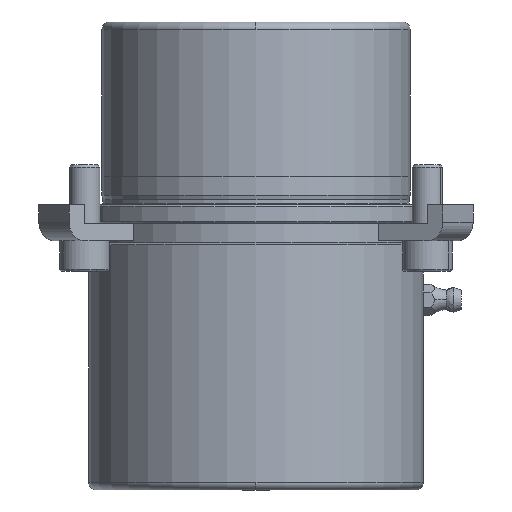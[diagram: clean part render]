
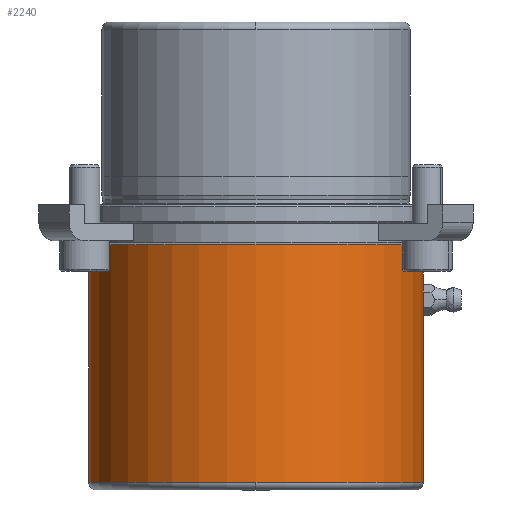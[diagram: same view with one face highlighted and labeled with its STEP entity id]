
A CAD part, front view. The second image highlights one B-rep face of the part: STEP entity #2240.
In plain terms, the highlighted cylindrical face has radius 44 mm (diameter 88 mm), a partial arc.
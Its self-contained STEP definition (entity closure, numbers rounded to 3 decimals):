
#604=CARTESIAN_POINT('',(0.,-44.,-73.));
#605=VERTEX_POINT('',#604);
#613=CARTESIAN_POINT('',(-44.0,0.,-73.0));
#614=VERTEX_POINT('',#613);
#615=CARTESIAN_POINT('',(0.0,0.,-73.0));
#616=DIRECTION('',(0.0,0.0,-1.0));
#617=DIRECTION('',(1.0,0.0,0.0));
#618=AXIS2_PLACEMENT_3D('',#615,#616,#617);
#619=CIRCLE('',#618,44.0);
#620=EDGE_CURVE('',#605,#614,#619,.T.);
#637=CARTESIAN_POINT('',(44.0,0.,-73.0));
#638=VERTEX_POINT('',#637);
#639=CARTESIAN_POINT('',(44.0,0.,-27.5));
#640=VERTEX_POINT('',#639);
#641=CARTESIAN_POINT('',(44.0,0.,-73.0));
#642=DIRECTION('',(0.0,0.0,1.0));
#643=VECTOR('',#642,45.5);
#644=LINE('',#641,#643);
#645=EDGE_CURVE('',#638,#640,#644,.T.);
#655=CARTESIAN_POINT('',(-44.0,0.,-10.5));
#656=VERTEX_POINT('',#655);
#657=CARTESIAN_POINT('',(-44.0,0.,-73.0));
#658=DIRECTION('',(0.0,0.0,1.0));
#659=VECTOR('',#658,62.5);
#660=LINE('',#657,#659);
#661=EDGE_CURVE('',#614,#656,#660,.T.);
#663=CARTESIAN_POINT('',(44.0,0.,-10.5));
#664=VERTEX_POINT('',#663);
#672=CARTESIAN_POINT('',(44.0,0.,-22.5));
#673=VERTEX_POINT('',#672);
#674=CARTESIAN_POINT('',(44.0,0.,-22.5));
#675=DIRECTION('',(0.0,0.0,1.0));
#676=VECTOR('',#675,12.0);
#677=LINE('',#674,#676);
#678=EDGE_CURVE('',#673,#664,#677,.T.);
#1579=CARTESIAN_POINT('',(43.929,-2.5,-25.0));
#1580=VERTEX_POINT('',#1579);
#1581=CARTESIAN_POINT('',(43.929,-2.5,-25.0));
#1582=CARTESIAN_POINT('',(43.929,-2.5,-24.843));
#1583=CARTESIAN_POINT('',(43.93,-2.485,-24.681));
#1584=CARTESIAN_POINT('',(43.933,-2.422,-24.358));
#1585=CARTESIAN_POINT('',(43.936,-2.373,-24.197));
#1586=CARTESIAN_POINT('',(43.943,-2.246,-23.889));
#1587=CARTESIAN_POINT('',(43.947,-2.166,-23.742));
#1588=CARTESIAN_POINT('',(43.955,-1.983,-23.469));
#1589=CARTESIAN_POINT('',(43.96,-1.879,-23.343));
#1590=CARTESIAN_POINT('',(43.969,-1.657,-23.121));
#1591=CARTESIAN_POINT('',(43.974,-1.531,-23.017));
#1592=CARTESIAN_POINT('',(43.982,-1.258,-22.834));
#1593=CARTESIAN_POINT('',(43.986,-1.111,-22.754));
#1594=CARTESIAN_POINT('',(43.993,-0.803,-22.627));
#1595=CARTESIAN_POINT('',(43.996,-0.642,-22.578));
#1596=CARTESIAN_POINT('',(43.999,-0.319,-22.515));
#1597=CARTESIAN_POINT('',(44.0,-0.157,-22.5));
#1598=CARTESIAN_POINT('',(44.0,0.,-22.5));
#1599=B_SPLINE_CURVE_WITH_KNOTS('',3,(#1581,#1582,#1583,#1584,#1585,#1586,#1587,#1588,#1589,#1590,#1591,#1592,#1593,#1594,#1595,#1596,#1597,#1598),.UNSPECIFIED.,.F.,.U.,(4,2,2,2,2,2,2,2,4),(0.0,0.471,0.942,1.413,1.884,2.355,2.826,3.297,3.768),.UNSPECIFIED.);
#1600=EDGE_CURVE('',#1580,#673,#1599,.T.);
#1602=CARTESIAN_POINT('',(44.0,0.,-27.5));
#1603=CARTESIAN_POINT('',(44.0,-0.157,-27.5));
#1604=CARTESIAN_POINT('',(43.999,-0.319,-27.485));
#1605=CARTESIAN_POINT('',(43.996,-0.642,-27.422));
#1606=CARTESIAN_POINT('',(43.993,-0.803,-27.373));
#1607=CARTESIAN_POINT('',(43.986,-1.111,-27.246));
#1608=CARTESIAN_POINT('',(43.982,-1.258,-27.166));
#1609=CARTESIAN_POINT('',(43.974,-1.531,-26.983));
#1610=CARTESIAN_POINT('',(43.969,-1.657,-26.879));
#1611=CARTESIAN_POINT('',(43.96,-1.879,-26.657));
#1612=CARTESIAN_POINT('',(43.955,-1.983,-26.531));
#1613=CARTESIAN_POINT('',(43.947,-2.166,-26.258));
#1614=CARTESIAN_POINT('',(43.943,-2.246,-26.111));
#1615=CARTESIAN_POINT('',(43.936,-2.373,-25.803));
#1616=CARTESIAN_POINT('',(43.933,-2.422,-25.642));
#1617=CARTESIAN_POINT('',(43.93,-2.485,-25.319));
#1618=CARTESIAN_POINT('',(43.929,-2.5,-25.157));
#1619=CARTESIAN_POINT('',(43.929,-2.5,-25.0));
#1620=B_SPLINE_CURVE_WITH_KNOTS('',3,(#1602,#1603,#1604,#1605,#1606,#1607,#1608,#1609,#1610,#1611,#1612,#1613,#1614,#1615,#1616,#1617,#1618,#1619),.UNSPECIFIED.,.F.,.U.,(4,2,2,2,2,2,2,2,4),(11.303,11.774,12.245,12.716,13.187,13.658,14.129,14.6,15.071),.UNSPECIFIED.);
#1621=EDGE_CURVE('',#640,#1580,#1620,.T.);
#2209=CARTESIAN_POINT('',(0.0,0.,-10.5));
#2210=DIRECTION('',(0.0,0.0,-1.0));
#2211=DIRECTION('',(1.0,0.0,0.0));
#2212=AXIS2_PLACEMENT_3D('',#2209,#2210,#2211);
#2213=CIRCLE('',#2212,44.0);
#2214=EDGE_CURVE('',#664,#656,#2213,.T.);
#2219=CARTESIAN_POINT('',(0.0,0.,-41.75));
#2220=DIRECTION('',(0.0,0.,-1.0));
#2221=DIRECTION('',(1.0,0.0,0.0));
#2222=AXIS2_PLACEMENT_3D('',#2219,#2220,#2221);
#2223=CYLINDRICAL_SURFACE('',#2222,44.0);
#2224=ORIENTED_EDGE('',*,*,#645,.T.);
#2225=ORIENTED_EDGE('',*,*,#1621,.T.);
#2226=ORIENTED_EDGE('',*,*,#1600,.T.);
#2227=ORIENTED_EDGE('',*,*,#678,.T.);
#2228=ORIENTED_EDGE('',*,*,#2214,.T.);
#2229=ORIENTED_EDGE('',*,*,#661,.F.);
#2230=ORIENTED_EDGE('',*,*,#620,.F.);
#2231=CARTESIAN_POINT('',(0.0,0.,-73.0));
#2232=DIRECTION('',(0.0,0.0,-1.0));
#2233=DIRECTION('',(1.0,0.0,0.0));
#2234=AXIS2_PLACEMENT_3D('',#2231,#2232,#2233);
#2235=CIRCLE('',#2234,44.0);
#2236=EDGE_CURVE('',#638,#605,#2235,.T.);
#2237=ORIENTED_EDGE('',*,*,#2236,.F.);
#2238=EDGE_LOOP('',(#2224,#2225,#2226,#2227,#2228,#2229,#2230,#2237));
#2239=FACE_OUTER_BOUND('',#2238,.T.);
#2240=ADVANCED_FACE('',(#2239),#2223,.T.);
